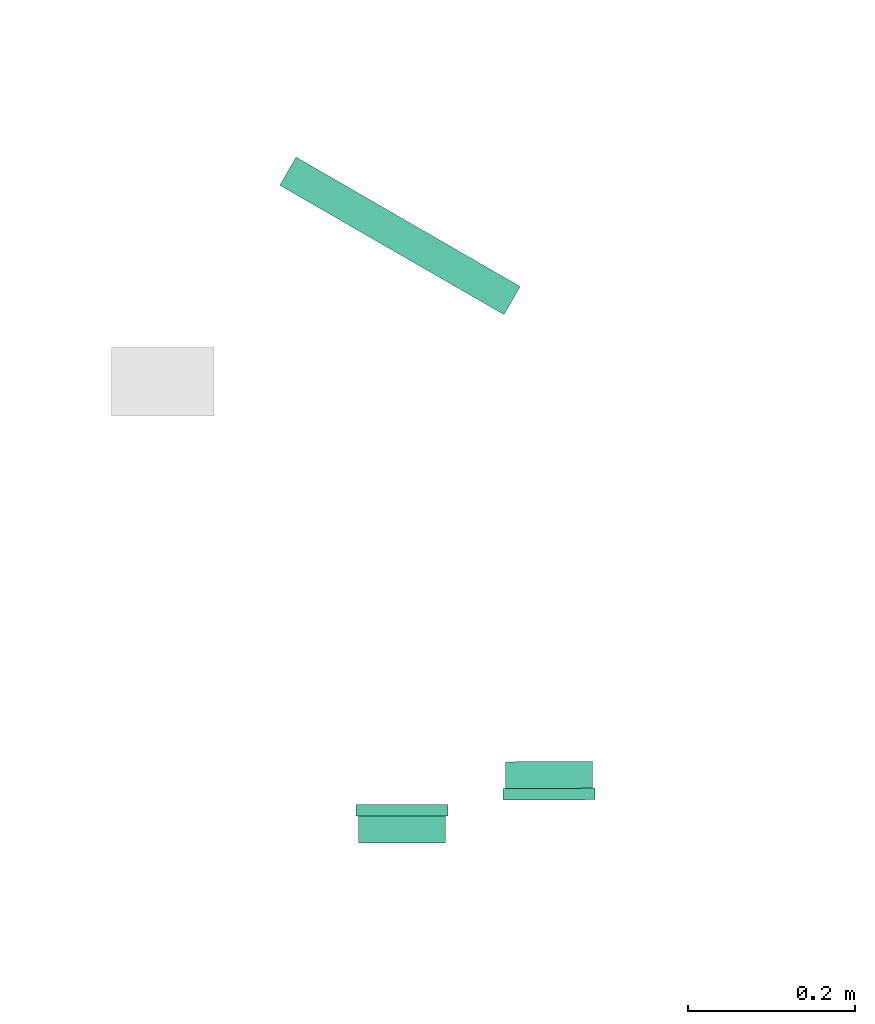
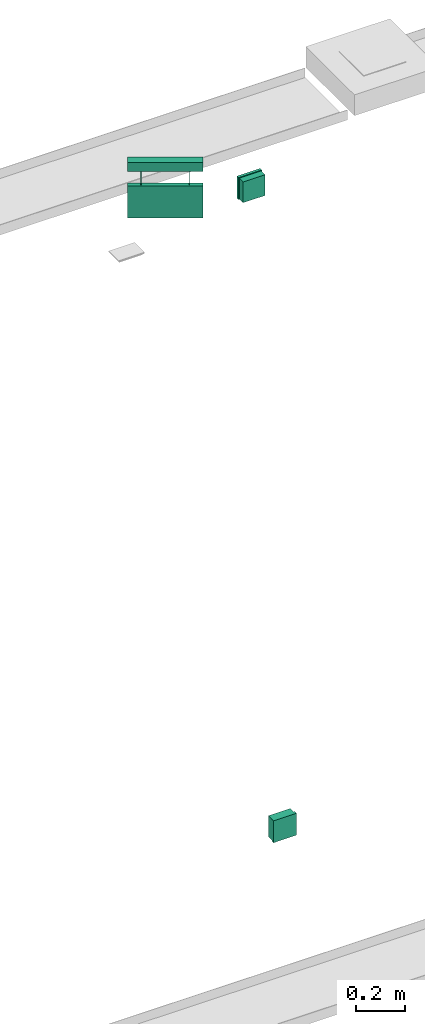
# One storey, part 4 of 24: 2 flow fittings, 1 flow terminal.
"""IFC2X3 building model written with IfcOpenShell, lengths in millimetres."""

from ifc_helpers import new_model, entity, si_unit, converted_unit, derived_unit, direction, frame, origin_with_axes, place, context, subcontext, project, spatial, open_shell, surface_model, source, transform, mapped, type_object, element, save


model = new_model("IFC2X3")

# Units and contexts
model_context = context("Model", 3, precision=0.01, world=frame((0.0, 4.29681676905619e-09, 0.0)), true_north=direction((4.01073788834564e-13, 1.0)))
plan_context = context("Plan", 3, precision=0.01, world=frame((0.0, 4.29681676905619e-09, 0.0)), true_north=direction((4.01073788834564e-13, 1.0)))
body_context = subcontext(model_context, "Body", "Model", "MODEL_VIEW")
ifc_project = project(units=[converted_unit("PLANEANGLEUNIT", "DEGREE", entity("IfcPositiveLengthMeasure", 0.0174532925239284), si_unit("PLANEANGLEUNIT", "RADIAN"), dimensions=[0, 0, 0, 0, 0, 0, 0]), si_unit("AREAUNIT", "SQUARE_METRE"), si_unit("LENGTHUNIT", "METRE", prefix="MILLI"), si_unit("MASSUNIT", "GRAM", prefix="KILO"), si_unit("POWERUNIT", "WATT"), si_unit("PRESSUREUNIT", "PASCAL"), si_unit("FORCEUNIT", "NEWTON", prefix="KILO"), si_unit("ELECTRICVOLTAGEUNIT", "VOLT"), si_unit("ELECTRICCURRENTUNIT", "AMPERE"), si_unit("THERMODYNAMICTEMPERATUREUNIT", "DEGREE_CELSIUS"), si_unit("TIMEUNIT", "SECOND"), si_unit("VOLUMEUNIT", "CUBIC_METRE"), derived_unit("LINEARVELOCITYUNIT", [(si_unit("LENGTHUNIT", "METRE"), 1), (si_unit("TIMEUNIT", "SECOND"), -1)]), derived_unit("VOLUMETRICFLOWRATEUNIT", [(si_unit("VOLUMEUNIT", "CUBIC_METRE"), 1), (si_unit("TIMEUNIT", "SECOND"), -1)]), derived_unit("THERMALTRANSMITTANCEUNIT", [(si_unit("POWERUNIT", "WATT"), 1), (si_unit("THERMODYNAMICTEMPERATUREUNIT", "KELVIN"), -1), (si_unit("AREAUNIT", "SQUARE_METRE"), -1)]), derived_unit("SOUNDPRESSUREUNIT", [(si_unit("PRESSUREUNIT", "PASCAL"), 1)])], contexts=[model_context, plan_context])

# Site, building, storey
site_placement = place(None, frame((0.0, -4.29681676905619e-09, 0.0), z_axis=(0.0, 0.0, 1.0), x_axis=(1.0, 0.0, 0.0)))
site = spatial("IfcSite", under=ifc_project, at=site_placement, Name="ENGM", CompositionType="ELEMENT")
building_placement = place(site_placement, frame((0.0, 4.29681676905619e-09, 0.0), z_axis=(0.0, 0.0, 1.0), x_axis=(1.0, 0.0, 0.0)))
building = spatial("IfcBuilding", under=site, at=building_placement, Name="TH", CompositionType="ELEMENT")
storey_placement = place(building_placement, frame((0.0, 0.0, 210200.0), z_axis=(0.0, 0.0, 1.0), x_axis=(1.0, 0.0, 0.0)))
storey = spatial("IfcBuildingStorey", under=building, at=storey_placement, Name="Nivå F - 0,7 m", CompositionType="ELEMENT", Elevation=210200.0)

# Flow fittings
junction_box_type = type_object("IfcJunctionBoxType", Name="Koblingsboks åpen", PredefinedType="NOTDEFINED")
shared_shape_1 = source(origin_with_axes(), body_context, "Body", "SurfaceModel", [
    surface_model("IfcShellBasedSurfaceModel", [(-55.0, 46.0, 55.0), (-55.0, 32.2, 55.0), (55.0, 32.2, 55.0), (55.0, 46.0, 55.0), (55.0, 46.0, -55.0), (55.0, 32.2, -55.0), (-55.0, 32.2, -55.0), (-55.0, 46.0, -55.0), (-52.0, 32.2, 52.0), (-52.0, 0.0, 52.0), (52.0, 0.0, 52.0), (52.0, 32.2, 52.0), (52.0, 32.2, -52.0), (52.0, 0.0, -52.0), (-52.0, 0.0, -52.0), (-52.0, 32.2, -52.0)], [open_shell([[[0, 1, 2]], [[2, 3, 0]], [[4, 5, 6]], [[6, 7, 4]], [[2, 1, 6]], [[6, 5, 2]], [[3, 2, 5]], [[5, 4, 3]], [[0, 3, 4]], [[4, 7, 0]], [[1, 0, 7]], [[7, 6, 1]], [[8, 9, 10]], [[10, 11, 8]], [[12, 13, 14]], [[14, 15, 12]], [[10, 9, 14]], [[14, 13, 10]], [[11, 10, 13]], [[13, 12, 11]], [[8, 11, 12]], [[12, 15, 8]], [[9, 8, 15]], [[15, 14, 9]]])]),
])
for number, where, z_axis, x_axis in (
    (1, (902432.03037, 477598.08045, 0.0), (0.0, 0.0, 1.0), (-0.999983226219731, -0.00579200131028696, 0.0)),
    (2, (902256.14095, 477500.7, 3300.0), (0.0, 0.0, 1.0), (1.0, 0.0, 0.0)),
):
    element("IfcFlowFitting", number, at=place(storey_placement, frame(where, z_axis=z_axis, x_axis=x_axis)), inside=storey, type_object=junction_box_type, Name="Koblingsboks åpen", context=body_context, shape_type="MappedRepresentation", body=[
        mapped(shared_shape_1, transform((0.0, 0.0, 0.0), scale=1.0)),
    ])

# Flow terminal
light_fixture_type = type_object("IfcLightFixtureType", Name="IB7334 Zumtobel Puresign/Consign 150 ASI NDA", PredefinedType="NOTDEFINED")
shared_shape_2 = source(origin_with_axes(), body_context, "Body", "SurfaceModel", [
    surface_model("IfcShellBasedSurfaceModel", [(-81.53868, 34.0, -145.12258), (-54.46132, 34.0, -145.12258), (-54.46132, 34.0, -221.44284), (-27.10707, 34.0, -224.68761), (-68.0, 34.0, -265.58054), (-27.10707, 34.0, -194.08859), (-81.53868, 34.0, -221.44284), (-108.89293, 34.0, -224.68761), (-108.89293, 34.0, -194.08859), (-81.53868, 32.0, -221.44284), (-68.0, 32.0, -265.58054), (-54.46132, 32.0, -221.44284), (-108.89293, 32.0, -224.68761), (-108.89293, 32.0, -194.08859), (-27.10707, 32.0, -224.68761), (-81.53868, 32.0, -145.12258), (-54.46132, 32.0, -145.12258), (-27.10707, 32.0, -194.08859), (-128.62178, 34.0, -240.35155), (-135.61481, 34.0, -223.4689), (-117.49747, 34.0, -254.84903), (-138.0, 34.0, -205.35156), (-135.61481, 34.0, -187.23423), (-128.62178, 34.0, -170.35156), (-103.0, 34.0, -265.97334), (-86.11734, 34.0, -272.96637), (-68.0, 34.0, -275.35156), (-49.88267, 34.0, -272.96637), (-33.0, 34.0, -265.97334), (-117.49747, 34.0, -155.8541), (-103.0, 34.0, -144.72978), (-86.11734, 34.0, -137.73675), (-68.0, 34.0, -135.35156), (-49.88267, 34.0, -137.73675), (-33.0, 34.0, -144.72978), (-0.38519, 34.0, -223.4689), (-7.37822, 34.0, -240.35155), (2.0, 34.0, -205.35156), (-18.50252, 34.0, -254.84903), (-18.50252, 34.0, -155.8541), (-7.37822, 34.0, -170.35156), (-0.38519, 34.0, -187.23423), (-49.88267, 32.0, -137.73675), (-68.0, 32.0, -135.35156), (-33.0, 32.0, -144.72978), (-103.0, 32.0, -144.72978), (-86.11734, 32.0, -137.73675), (-0.38519, 32.0, -187.23423), (-7.37822, 32.0, -170.35156), (2.0, 32.0, -205.35156), (-18.50252, 32.0, -155.8541), (-0.38519, 32.0, -223.4689), (-7.37822, 32.0, -240.35155), (-18.50252, 32.0, -254.84903), (-117.49747, 32.0, -155.8541), (-128.62178, 32.0, -170.35156), (-135.61481, 32.0, -187.23423), (-138.0, 32.0, -205.35156), (-135.61481, 32.0, -223.4689), (-128.62178, 32.0, -240.35155), (-117.49747, 32.0, -254.84903), (-103.0, 32.0, -265.97334), (-33.0, 32.0, -265.97334), (-86.11734, 32.0, -272.96637), (-49.88267, 32.0, -272.96637), (-68.0, 32.0, -275.35156), (-155.0, 34.0, -285.35157), (29.54747, 34.0, -259.89348), (40.0, 34.0, -266.174), (155.0, 34.0, -285.35157), (-155.0, 34.0, -125.35156), (10.0, 34.0, -203.35156), (10.0, 34.0, -191.35157), (40.0, 34.0, -203.35156), (28.0, 34.0, -178.14045), (58.20469, 34.0, -212.19986), (68.0, 34.0, -251.35155), (68.0, 34.0, -219.57417), (110.0, 34.0, -251.35155), (110.0, 34.0, -239.35156), (80.0, 34.0, -207.93515), (80.0, 34.0, -239.35156), (155.0, 34.0, -125.35156), (28.0, 34.0, -191.35157), (88.85504, 34.0, -196.43854), (99.14496, 34.0, -190.26459), (78.60286, 34.0, -179.35157), (65.7082, 34.0, -179.35157), (38.37653, 34.0, -166.87452), (42.6718, 34.0, -168.35925), (40.0, 34.0, -183.07235), (29.87565, 34.0, -160.35157), (28.0, 34.0, -153.35156), (28.47704, 34.0, -149.7281), (29.87565, 34.0, -146.35156), (28.47704, 34.0, -156.97503), (35.0, 34.0, -165.47591), (32.1005, 34.0, -163.25106), (42.0, 34.0, -139.35156), (32.1005, 34.0, -143.45206), (35.0, 34.0, -141.22721), (38.37653, 34.0, -139.8286), (42.0, 34.0, -167.35156), (45.62347, 34.0, -166.87452), (46.0, 34.0, -167.35156), (49.0, 34.0, -165.47591), (85.39714, 34.0, -167.35156), (51.89949, 34.0, -163.25106), (54.12435, 34.0, -160.35157), (55.52296, 34.0, -156.97503), (51.89949, 34.0, -143.45206), (49.0, 34.0, -141.22721), (45.62347, 34.0, -139.8286), (55.52296, 34.0, -149.7281), (56.0, 34.0, -153.35156), (54.12435, 34.0, -146.35156), (155.0, 32.0, -125.35156), (-155.0, 32.0, -125.35156), (42.0, 32.0, -139.35156), (35.0, 32.0, -141.22721), (29.87565, 32.0, -146.35156), (32.1005, 32.0, -143.45206), (38.37653, 32.0, -139.8286), (28.47704, 32.0, -149.7281), (28.0, 32.0, -153.35156), (28.47704, 32.0, -156.97503), (28.0, 32.0, -178.14045), (38.37653, 32.0, -166.87452), (35.0, 32.0, -165.47591), (32.1005, 32.0, -163.25106), (29.87565, 32.0, -160.35157), (45.62347, 32.0, -139.8286), (49.0, 32.0, -141.22721), (51.89949, 32.0, -143.45206), (54.12435, 32.0, -146.35156), (85.39714, 32.0, -167.35156), (55.52296, 32.0, -149.7281), (56.0, 32.0, -153.35156), (45.62347, 32.0, -166.87452), (42.6718, 32.0, -168.35925), (46.0, 32.0, -167.35156), (42.0, 32.0, -167.35156), (49.0, 32.0, -165.47591), (54.12435, 32.0, -160.35157), (55.52296, 32.0, -156.97503), (51.89949, 32.0, -163.25106), (99.14496, 32.0, -190.26459), (-155.0, 32.0, -285.35157), (10.0, 32.0, -203.35156), (10.0, 32.0, -191.35157), (40.0, 32.0, -203.35156), (29.54747, 32.0, -259.89348), (155.0, 32.0, -285.35157), (40.0, 32.0, -266.174), (28.0, 32.0, -191.35157), (88.85504, 32.0, -196.43854), (78.60286, 32.0, -179.35157), (80.0, 32.0, -207.93515), (65.7082, 32.0, -179.35157), (110.0, 32.0, -239.35156), (40.0, 32.0, -183.07235), (58.20469, 32.0, -212.19986), (68.0, 32.0, -219.57417), (68.0, 32.0, -251.35155), (110.0, 32.0, -251.35155), (80.0, 32.0, -239.35156), (97.65961, 22.79955, -45.35156), (98.63059, 23.54461, -45.35156), (98.24492, 23.38486, -45.35156), (97.91374, 23.13074, -45.35156), (97.49985, 22.41388, -45.35156), (97.44537, 22.0, -45.35156), (99.45835, 23.54461, -45.35156), (100.42933, 21.20045, -45.35156), (99.84401, 23.38486, -45.35156), (100.58908, 22.41388, -45.35156), (99.04447, 23.5991, -45.35156), (100.42933, 22.79955, -45.35156), (100.1752, 23.13074, -45.35156), (97.91374, 20.86927, -45.35156), (97.49985, 21.58612, -45.35156), (97.65961, 21.20045, -45.35156), (98.63059, 20.45539, -45.35156), (99.04447, 20.4009, -45.35156), (98.24492, 20.61514, -45.35156), (99.45835, 20.45539, -45.35156), (100.64357, 22.0, -45.35156), (100.58908, 21.58612, -45.35156), (99.84401, 20.61514, -45.35156), (100.1752, 20.86927, -45.35156), (-99.84401, 23.38486, -45.35156), (-98.24492, 23.38486, -45.35156), (-99.45835, 23.54461, -45.35156), (-100.1752, 23.13074, -45.35156), (-100.1752, 20.86927, -45.35156), (-100.58908, 22.41388, -45.35156), (-100.64357, 22.0, -45.35156), (-100.42933, 22.79955, -45.35156), (-97.65961, 21.20045, -45.35156), (-99.04447, 23.5991, -45.35156), (-98.63059, 23.54461, -45.35156), (-97.91374, 23.13074, -45.35156), (-97.49985, 22.41388, -45.35156), (-97.65961, 22.79955, -45.35156), (-100.58908, 21.58612, -45.35156), (-100.42933, 21.20045, -45.35156), (-99.45835, 20.45539, -45.35156), (-99.84401, 20.61514, -45.35156), (-99.04447, 20.4009, -45.35156), (-98.63059, 20.45539, -45.35156), (-97.44537, 22.0, -45.35156), (-97.49985, 21.58612, -45.35156), (-98.24492, 20.61514, -45.35156), (-97.91374, 20.86927, -45.35156), (97.91374, 20.86927, -124.69685), (99.04447, 20.4009, -124.69685), (98.63059, 20.45539, -124.69685), (98.24492, 20.61514, -124.69685), (97.65961, 21.20045, -124.69685), (97.49985, 21.58612, -124.69685), (99.45835, 20.45539, -124.69685), (97.65961, 22.79955, -124.69685), (100.42933, 21.20045, -124.69685), (99.84401, 20.61514, -124.69685), (100.1752, 20.86927, -124.69685), (100.64357, 22.0, -124.69685), (100.58908, 21.58612, -124.69685), (100.58908, 22.41388, -124.69685), (97.44537, 22.0, -124.69685), (97.49985, 22.41388, -124.69685), (98.63059, 23.54461, -124.69685), (98.24492, 23.38486, -124.69685), (97.91374, 23.13074, -124.69685), (99.45835, 23.54461, -124.69685), (100.42933, 22.79955, -124.69685), (99.84401, 23.38486, -124.69685), (100.1752, 23.13074, -124.69685), (99.04447, 23.5991, -124.69685), (-99.45835, 20.45539, -124.69685), (-98.63059, 20.45539, -124.69685), (-99.04447, 20.4009, -124.69685), (-100.1752, 20.86927, -124.69685), (-99.84401, 20.61514, -124.69685), (-100.42933, 21.20045, -124.69685), (-100.58908, 21.58612, -124.69685), (-97.65961, 21.20045, -124.69685), (-99.84401, 23.38486, -124.69685), (-98.24492, 20.61514, -124.69685), (-97.91374, 20.86927, -124.69685), (-97.44537, 22.0, -124.69685), (-97.49985, 21.58612, -124.69685), (-97.49985, 22.41388, -124.69685), (-100.64357, 22.0, -124.69685), (-100.1752, 23.13074, -124.69685), (-100.58908, 22.41388, -124.69685), (-100.42933, 22.79955, -124.69685), (-98.24492, 23.38486, -124.69685), (-99.45835, 23.54461, -124.69685), (-97.91374, 23.13074, -124.69685), (-97.65961, 22.79955, -124.69685), (-99.04447, 23.5991, -124.69685), (-98.63059, 23.54461, -124.69685), (155.0, 41.43279, -0.02005), (155.0, 2.56721, -0.02005), (155.0, 41.43279, -45.67969), (155.0, 2.56721, -45.67969), (155.0, 32.0, -124.69685), (155.0, 12.0, -124.69685), (155.0, 12.0, -284.69685), (155.0, 32.0, -284.69685), (-155.0, 32.0, -284.69685), (-155.0, 12.0, -284.69685), (-155.0, 32.0, -124.69685), (-155.0, 12.0, -124.69685), (-155.0, 41.43279, -45.67969), (-155.0, 2.56721, -45.67969), (-155.0, 2.56721, -0.02005), (-155.0, 41.43279, -0.02005)], [open_shell([[[0, 1, 2]], [[2, 3, 4]], [[3, 2, 5]], [[6, 4, 7]], [[4, 6, 2]], [[6, 7, 8]], [[2, 6, 0]], [[9, 10, 11]], [[12, 9, 13]], [[9, 12, 10]], [[10, 14, 11]], [[15, 11, 16]], [[15, 9, 11]], [[17, 11, 14]], [[3, 5, 17]], [[17, 14, 3]], [[4, 3, 14]], [[14, 10, 4]], [[7, 4, 10]], [[10, 12, 7]], [[8, 7, 12]], [[12, 13, 8]], [[6, 8, 9]], [[13, 9, 8]], [[0, 6, 9]], [[9, 15, 0]], [[1, 0, 15]], [[15, 16, 1]], [[2, 1, 16]], [[16, 11, 2]], [[5, 2, 17]], [[11, 17, 2]], [[18, 19, 7]], [[7, 20, 18]], [[7, 19, 21]], [[22, 23, 8]], [[7, 21, 8]], [[6, 8, 0]], [[8, 21, 22]], [[20, 7, 24]], [[25, 24, 4]], [[26, 4, 27]], [[4, 26, 25]], [[7, 4, 24]], [[27, 4, 28]], [[3, 28, 4]], [[8, 23, 29]], [[30, 0, 8]], [[0, 31, 32]], [[31, 0, 30]], [[32, 33, 1]], [[2, 1, 5]], [[34, 1, 33]], [[32, 1, 0]], [[5, 1, 34]], [[3, 35, 36]], [[35, 3, 37]], [[36, 38, 3]], [[38, 28, 3]], [[39, 40, 5]], [[5, 41, 37]], [[41, 5, 40]], [[5, 37, 3]], [[39, 5, 34]], [[30, 8, 29]], [[42, 43, 16]], [[17, 44, 16]], [[16, 44, 42]], [[43, 15, 16]], [[15, 45, 13]], [[46, 15, 43]], [[15, 46, 45]], [[16, 11, 17]], [[17, 47, 48]], [[17, 49, 47]], [[48, 50, 17]], [[14, 51, 49]], [[52, 51, 14]], [[52, 14, 53]], [[14, 49, 17]], [[50, 44, 17]], [[45, 54, 13]], [[55, 56, 13]], [[57, 12, 13]], [[13, 56, 57]], [[9, 15, 13]], [[58, 59, 12]], [[60, 12, 59]], [[12, 57, 58]], [[12, 60, 61]], [[14, 10, 62]], [[53, 14, 62]], [[61, 63, 10]], [[64, 10, 65]], [[10, 64, 62]], [[65, 10, 63]], [[12, 61, 10]], [[13, 54, 55]], [[3, 4, 10]], [[10, 14, 3]], [[5, 3, 14]], [[14, 17, 5]], [[2, 5, 17]], [[17, 11, 2]], [[1, 2, 16]], [[11, 16, 2]], [[0, 1, 16]], [[16, 15, 0]], [[6, 0, 15]], [[15, 9, 6]], [[8, 6, 9]], [[9, 13, 8]], [[7, 8, 13]], [[13, 12, 7]], [[4, 7, 12]], [[12, 10, 4]], [[42, 33, 43]], [[44, 34, 42]], [[40, 50, 48]], [[44, 50, 39]], [[41, 48, 47]], [[42, 34, 33]], [[33, 32, 43]], [[41, 40, 48]], [[39, 50, 40]], [[39, 34, 44]], [[37, 41, 47]], [[47, 49, 37]], [[51, 35, 49]], [[52, 36, 51]], [[28, 53, 62]], [[52, 53, 38]], [[27, 62, 64]], [[52, 38, 36]], [[36, 35, 51]], [[26, 27, 64]], [[28, 62, 27]], [[28, 38, 53]], [[65, 26, 64]], [[49, 35, 37]], [[63, 25, 65]], [[61, 24, 63]], [[18, 60, 59]], [[61, 60, 20]], [[19, 59, 58]], [[63, 24, 25]], [[25, 26, 65]], [[19, 18, 59]], [[20, 60, 18]], [[20, 24, 61]], [[21, 19, 58]], [[58, 57, 21]], [[56, 22, 57]], [[55, 23, 56]], [[30, 54, 45]], [[55, 54, 29]], [[31, 45, 46]], [[55, 29, 23]], [[23, 22, 56]], [[32, 31, 46]], [[30, 45, 31]], [[30, 29, 54]], [[43, 32, 46]], [[57, 22, 21]], [[66, 24, 25]], [[24, 66, 20]], [[18, 20, 66]], [[66, 19, 18]], [[25, 26, 66]], [[28, 38, 67]], [[27, 28, 68]], [[26, 27, 69]], [[66, 26, 69]], [[21, 19, 66]], [[22, 21, 70]], [[67, 36, 35]], [[71, 37, 72]], [[41, 72, 37]], [[37, 71, 35]], [[73, 35, 71]], [[41, 40, 74]], [[21, 66, 70]], [[38, 36, 67]], [[67, 68, 28]], [[67, 73, 75]], [[76, 68, 77]], [[69, 78, 79]], [[69, 68, 78]], [[80, 79, 81]], [[68, 76, 78]], [[82, 69, 79]], [[68, 69, 27]], [[73, 67, 35]], [[74, 83, 72]], [[72, 41, 74]], [[84, 85, 79]], [[84, 80, 86]], [[86, 80, 87]], [[88, 89, 74]], [[84, 79, 80]], [[75, 73, 90]], [[82, 79, 85]], [[91, 74, 40]], [[92, 40, 39]], [[39, 93, 92]], [[94, 93, 39]], [[23, 70, 29]], [[40, 92, 95]], [[96, 74, 97]], [[91, 40, 95]], [[74, 91, 97]], [[74, 96, 88]], [[31, 30, 70]], [[98, 33, 32]], [[70, 32, 31]], [[30, 29, 70]], [[39, 99, 94]], [[39, 34, 99]], [[34, 100, 99]], [[100, 34, 33]], [[101, 100, 33]], [[32, 70, 82]], [[23, 22, 70]], [[89, 102, 103]], [[102, 89, 88]], [[89, 103, 104]], [[104, 105, 106]], [[107, 106, 105]], [[105, 104, 103]], [[106, 108, 109]], [[106, 107, 108]], [[110, 111, 82]], [[98, 101, 33]], [[112, 98, 82]], [[111, 112, 82]], [[113, 106, 114]], [[115, 82, 106]], [[82, 115, 110]], [[106, 113, 115]], [[114, 106, 109]], [[98, 32, 82]], [[106, 82, 85]], [[116, 117, 43]], [[43, 117, 46]], [[45, 46, 117]], [[117, 54, 45]], [[43, 42, 118]], [[119, 42, 44]], [[120, 121, 50]], [[44, 121, 119]], [[44, 50, 121]], [[119, 122, 42]], [[123, 120, 50]], [[123, 50, 124]], [[125, 124, 48]], [[54, 117, 55]], [[126, 127, 128]], [[126, 129, 130]], [[126, 128, 129]], [[130, 125, 48]], [[124, 50, 48]], [[117, 56, 55]], [[118, 131, 116]], [[118, 42, 122]], [[131, 132, 116]], [[116, 133, 134]], [[133, 116, 132]], [[135, 134, 136]], [[116, 134, 135]], [[135, 136, 137]], [[118, 116, 43]], [[138, 139, 140]], [[139, 138, 141]], [[139, 141, 127]], [[127, 126, 139]], [[138, 140, 142]], [[143, 135, 144]], [[142, 135, 145]], [[135, 142, 140]], [[135, 143, 145]], [[144, 135, 137]], [[116, 135, 146]], [[56, 117, 57]], [[57, 147, 58]], [[126, 48, 47]], [[148, 49, 51]], [[47, 49, 149]], [[150, 148, 51]], [[148, 149, 49]], [[51, 52, 151]], [[60, 59, 147]], [[61, 147, 63]], [[147, 61, 60]], [[59, 58, 147]], [[53, 62, 151]], [[65, 63, 147]], [[64, 65, 152]], [[62, 64, 153]], [[147, 152, 65]], [[117, 147, 57]], [[52, 53, 151]], [[154, 126, 149]], [[126, 47, 149]], [[155, 156, 157]], [[157, 156, 158]], [[146, 155, 159]], [[160, 150, 161]], [[162, 153, 163]], [[153, 151, 62]], [[163, 153, 164]], [[161, 150, 151]], [[157, 165, 159]], [[159, 164, 152]], [[116, 159, 152]], [[153, 152, 164]], [[159, 155, 157]], [[153, 64, 152]], [[51, 151, 150]], [[159, 116, 146]], [[130, 48, 126]], [[70, 66, 147]], [[147, 117, 70]], [[82, 70, 117]], [[117, 116, 82]], [[69, 82, 116]], [[116, 152, 69]], [[66, 69, 152]], [[152, 147, 66]], [[79, 78, 164]], [[164, 159, 79]], [[81, 79, 159]], [[159, 165, 81]], [[87, 80, 157]], [[157, 158, 87]], [[86, 87, 158]], [[158, 156, 86]], [[84, 86, 156]], [[156, 155, 84]], [[85, 84, 155]], [[155, 146, 85]], [[106, 85, 146]], [[146, 135, 106]], [[104, 106, 135]], [[135, 140, 104]], [[89, 104, 139]], [[140, 139, 104]], [[74, 89, 139]], [[139, 126, 74]], [[83, 74, 126]], [[126, 154, 83]], [[72, 83, 149]], [[154, 149, 83]], [[71, 72, 149]], [[149, 148, 71]], [[73, 71, 148]], [[148, 150, 73]], [[90, 73, 150]], [[150, 160, 90]], [[75, 90, 160]], [[160, 161, 75]], [[67, 75, 161]], [[161, 151, 67]], [[68, 67, 151]], [[151, 153, 68]], [[77, 68, 153]], [[153, 162, 77]], [[76, 77, 162]], [[162, 163, 76]], [[92, 125, 95]], [[95, 130, 91]], [[96, 97, 128]], [[129, 97, 91]], [[88, 96, 127]], [[125, 130, 95]], [[92, 124, 125]], [[96, 128, 127]], [[128, 97, 129]], [[91, 130, 129]], [[88, 127, 141]], [[141, 102, 88]], [[102, 138, 103]], [[103, 142, 105]], [[108, 107, 143]], [[145, 107, 105]], [[109, 108, 144]], [[142, 145, 105]], [[103, 138, 142]], [[109, 144, 137]], [[144, 108, 143]], [[107, 145, 143]], [[109, 137, 114]], [[141, 138, 102]], [[78, 76, 163]], [[163, 164, 78]], [[80, 81, 165]], [[165, 157, 80]], [[114, 136, 113]], [[113, 134, 115]], [[111, 110, 132]], [[133, 110, 115]], [[112, 111, 131]], [[136, 134, 113]], [[114, 137, 136]], [[111, 132, 131]], [[132, 110, 133]], [[115, 134, 133]], [[112, 131, 118]], [[118, 98, 112]], [[98, 122, 101]], [[101, 119, 100]], [[94, 99, 120]], [[121, 99, 100]], [[93, 94, 123]], [[119, 121, 100]], [[101, 122, 119]], [[93, 123, 124]], [[123, 94, 120]], [[99, 121, 120]], [[93, 124, 92]], [[118, 122, 98]], [[37, 47, 41]], [[41, 48, 40]], [[34, 39, 44]], [[50, 39, 40]], [[33, 34, 42]], [[47, 48, 41]], [[37, 49, 47]], [[34, 44, 42]], [[44, 39, 50]], [[40, 48, 50]], [[33, 42, 43]], [[43, 32, 33]], [[32, 46, 31]], [[31, 45, 30]], [[23, 29, 55]], [[54, 29, 30]], [[22, 23, 56]], [[45, 54, 30]], [[31, 46, 45]], [[22, 56, 57]], [[56, 23, 55]], [[29, 54, 55]], [[22, 57, 21]], [[43, 46, 32]], [[21, 58, 19]], [[19, 59, 18]], [[24, 20, 61]], [[60, 20, 18]], [[25, 24, 63]], [[58, 59, 19]], [[21, 57, 58]], [[24, 61, 63]], [[61, 20, 60]], [[18, 59, 60]], [[25, 63, 65]], [[65, 26, 25]], [[26, 64, 27]], [[27, 62, 28]], [[36, 38, 52]], [[53, 38, 28]], [[35, 36, 51]], [[62, 53, 28]], [[27, 64, 62]], [[35, 51, 49]], [[51, 36, 52]], [[38, 53, 52]], [[35, 49, 37]], [[65, 64, 26]], [[106, 86, 87]], [[86, 106, 85]], [[84, 86, 85]], [[87, 75, 90]], [[106, 87, 104]], [[89, 90, 74]], [[90, 89, 104]], [[73, 83, 90]], [[71, 72, 83]], [[83, 74, 90]], [[104, 87, 90]], [[77, 80, 81]], [[78, 76, 81]], [[78, 81, 79]], [[77, 81, 76]], [[73, 71, 83]], [[75, 77, 67]], [[77, 68, 67]], [[75, 80, 77]], [[75, 87, 80]], [[98, 112, 111]], [[110, 98, 111]], [[92, 101, 110]], [[113, 110, 115]], [[113, 92, 110]], [[101, 99, 100]], [[101, 98, 110]], [[101, 94, 99]], [[101, 92, 94]], [[94, 92, 93]], [[114, 109, 113]], [[109, 108, 107]], [[91, 109, 107]], [[105, 103, 102]], [[91, 107, 105]], [[91, 105, 102]], [[92, 91, 95]], [[92, 109, 91]], [[91, 96, 97]], [[102, 96, 91]], [[102, 88, 96]], [[109, 92, 113]], [[163, 164, 165]], [[163, 165, 162]], [[159, 165, 164]], [[162, 165, 157]], [[161, 151, 162]], [[151, 153, 162]], [[160, 161, 158]], [[148, 150, 154]], [[162, 157, 161]], [[161, 157, 158]], [[155, 146, 156]], [[158, 156, 135]], [[135, 156, 146]], [[158, 135, 140]], [[154, 150, 160]], [[126, 154, 160]], [[149, 148, 154]], [[160, 139, 126]], [[139, 160, 140]], [[160, 158, 140]], [[141, 138, 142]], [[130, 141, 142]], [[145, 143, 144]], [[130, 142, 145]], [[130, 145, 144]], [[128, 130, 129]], [[128, 127, 141]], [[130, 124, 125]], [[130, 128, 141]], [[120, 124, 130]], [[130, 144, 122]], [[144, 136, 133]], [[133, 136, 134]], [[118, 133, 132]], [[118, 144, 133]], [[132, 131, 118]], [[120, 122, 121]], [[123, 124, 120]], [[121, 122, 119]], [[130, 122, 120]], [[122, 144, 118]], [[137, 136, 144]], [[78, 79, 159]], [[159, 164, 78]], [[76, 78, 164]], [[164, 163, 76]], [[77, 76, 163]], [[163, 162, 77]], [[68, 77, 162]], [[162, 153, 68]], [[67, 68, 153]], [[153, 151, 67]], [[75, 67, 151]], [[151, 161, 75]], [[90, 75, 161]], [[161, 160, 90]], [[73, 90, 160]], [[160, 150, 73]], [[71, 73, 150]], [[150, 148, 71]], [[72, 71, 148]], [[148, 149, 72]], [[83, 72, 149]], [[149, 154, 83]], [[74, 83, 154]], [[154, 126, 74]], [[89, 74, 126]], [[126, 139, 89]], [[104, 89, 139]], [[139, 140, 104]], [[106, 104, 140]], [[140, 135, 106]], [[85, 106, 135]], [[135, 146, 85]], [[84, 85, 146]], [[146, 155, 84]], [[86, 84, 155]], [[155, 156, 86]], [[87, 86, 156]], [[156, 158, 87]], [[80, 87, 158]], [[158, 157, 80]], [[81, 80, 157]], [[157, 165, 81]], [[79, 81, 165]], [[165, 159, 79]], [[123, 93, 124]], [[120, 94, 123]], [[100, 121, 119]], [[120, 121, 99]], [[101, 119, 122]], [[123, 94, 93]], [[93, 92, 124]], [[101, 100, 119]], [[99, 121, 100]], [[99, 94, 120]], [[98, 101, 122]], [[122, 118, 98]], [[131, 112, 118]], [[132, 111, 131]], [[115, 133, 134]], [[132, 133, 110]], [[113, 134, 136]], [[132, 110, 111]], [[111, 112, 131]], [[114, 113, 136]], [[115, 134, 113]], [[115, 110, 133]], [[137, 114, 136]], [[118, 112, 98]], [[144, 109, 137]], [[143, 108, 144]], [[105, 145, 142]], [[143, 145, 107]], [[103, 142, 138]], [[144, 108, 109]], [[109, 114, 137]], [[103, 105, 142]], [[107, 145, 105]], [[107, 108, 143]], [[102, 103, 138]], [[138, 141, 102]], [[127, 88, 141]], [[128, 96, 127]], [[91, 129, 130]], [[128, 129, 97]], [[95, 130, 125]], [[128, 97, 96]], [[96, 88, 127]], [[92, 95, 125]], [[91, 130, 95]], [[91, 97, 129]], [[124, 92, 125]], [[141, 88, 102]], [[166, 167, 168]], [[166, 168, 169]], [[166, 170, 171]], [[172, 167, 173]], [[167, 166, 173]], [[174, 173, 175]], [[172, 176, 167]], [[174, 177, 178]], [[177, 174, 175]], [[174, 172, 173]], [[166, 171, 179]], [[180, 181, 179]], [[166, 179, 173]], [[182, 183, 179]], [[182, 179, 184]], [[185, 179, 183]], [[186, 173, 187]], [[175, 173, 186]], [[173, 188, 189]], [[188, 173, 185]], [[179, 185, 173]], [[171, 180, 179]], [[190, 191, 192]], [[193, 194, 190]], [[195, 196, 193]], [[195, 193, 197]], [[198, 191, 190]], [[199, 191, 200]], [[199, 192, 191]], [[201, 202, 203]], [[198, 201, 191]], [[198, 202, 201]], [[193, 196, 194]], [[204, 205, 194]], [[190, 194, 198]], [[194, 206, 198]], [[206, 194, 207]], [[208, 209, 206]], [[210, 198, 211]], [[202, 198, 210]], [[198, 212, 213]], [[212, 198, 209]], [[206, 209, 198]], [[196, 204, 194]], [[214, 215, 216]], [[214, 216, 217]], [[214, 218, 219]], [[215, 214, 220]], [[221, 222, 214]], [[223, 222, 224]], [[222, 223, 220]], [[222, 225, 226]], [[222, 220, 214]], [[222, 227, 225]], [[228, 214, 219]], [[228, 229, 221]], [[230, 222, 221]], [[231, 230, 221]], [[231, 221, 232]], [[222, 230, 233]], [[234, 235, 236]], [[235, 234, 227]], [[222, 235, 227]], [[233, 235, 222]], [[230, 237, 233]], [[221, 214, 228]], [[238, 239, 240]], [[241, 238, 242]], [[241, 243, 244]], [[245, 238, 241]], [[246, 245, 241]], [[247, 245, 248]], [[245, 247, 239]], [[245, 249, 250]], [[245, 239, 238]], [[245, 251, 249]], [[252, 241, 244]], [[253, 252, 254]], [[253, 254, 255]], [[246, 256, 245]], [[241, 253, 246]], [[256, 246, 257]], [[251, 258, 259]], [[245, 258, 251]], [[256, 260, 261]], [[245, 256, 258]], [[257, 260, 256]], [[253, 241, 252]], [[227, 175, 225]], [[234, 177, 227]], [[233, 237, 172]], [[236, 177, 234]], [[186, 225, 175]], [[175, 227, 177]], [[235, 174, 178]], [[174, 235, 172]], [[235, 233, 172]], [[178, 177, 236]], [[178, 236, 235]], [[237, 176, 172]], [[167, 230, 231]], [[232, 168, 231]], [[166, 221, 229]], [[232, 221, 169]], [[170, 229, 228]], [[167, 176, 230]], [[168, 167, 231]], [[166, 169, 221]], [[171, 170, 228]], [[166, 229, 170]], [[168, 232, 169]], [[230, 176, 237]], [[219, 180, 228]], [[218, 181, 219]], [[214, 217, 184]], [[218, 214, 179]], [[171, 228, 180]], [[180, 219, 181]], [[183, 182, 216]], [[216, 182, 184]], [[179, 214, 184]], [[179, 181, 218]], [[217, 216, 184]], [[216, 215, 183]], [[185, 220, 223]], [[224, 188, 223]], [[173, 222, 226]], [[224, 222, 189]], [[187, 226, 225]], [[183, 215, 185]], [[188, 185, 223]], [[173, 189, 222]], [[186, 187, 225]], [[173, 226, 187]], [[188, 224, 189]], [[185, 215, 220]], [[244, 243, 204]], [[252, 244, 196]], [[242, 238, 206]], [[241, 242, 194]], [[243, 241, 205]], [[243, 205, 204]], [[204, 196, 244]], [[194, 205, 241]], [[194, 242, 207]], [[206, 207, 242]], [[206, 238, 208]], [[238, 240, 208]], [[247, 248, 213]], [[239, 247, 212]], [[250, 249, 210]], [[245, 250, 211]], [[248, 245, 198]], [[239, 209, 240]], [[239, 212, 209]], [[240, 209, 208]], [[198, 245, 211]], [[212, 247, 213]], [[213, 248, 198]], [[250, 210, 211]], [[251, 259, 202]], [[249, 251, 210]], [[256, 261, 191]], [[258, 256, 201]], [[259, 258, 203]], [[210, 251, 202]], [[202, 259, 203]], [[201, 256, 191]], [[200, 191, 261]], [[203, 258, 201]], [[199, 200, 261]], [[261, 260, 199]], [[246, 253, 193]], [[257, 246, 190]], [[254, 252, 196]], [[255, 254, 195]], [[253, 255, 197]], [[257, 192, 260]], [[257, 190, 192]], [[260, 192, 199]], [[197, 255, 195]], [[190, 246, 193]], [[193, 253, 197]], [[254, 196, 195]], [[262, 263, 264]], [[265, 264, 263]], [[266, 267, 268]], [[268, 269, 266]], [[270, 271, 272]], [[273, 272, 271]], [[274, 275, 276]], [[276, 277, 274]], [[265, 263, 276]], [[276, 275, 265]], [[268, 267, 273]], [[273, 271, 268]], [[269, 268, 270]], [[271, 270, 268]], [[266, 269, 272]], [[270, 272, 269]], [[264, 265, 274]], [[275, 274, 265]], [[262, 264, 274]], [[274, 277, 262]], [[263, 262, 277]], [[277, 276, 263]], [[267, 266, 273]], [[272, 273, 266]]])]),
])
flow_terminal_placement = place(storey_placement, frame((902242.71031, 478208.61879, 3005.0), z_axis=(0.0, 0.0, 1.0), x_axis=(0.866025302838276, -0.500000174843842, 0.0)))
element("IfcFlowTerminal", 3, at=flow_terminal_placement, inside=storey, type_object=light_fixture_type, Name="IB7334 Zumtobel Puresign/Consign 150 ASI NDA", context=body_context, shape_type="MappedRepresentation", body=[
    mapped(shared_shape_2, transform((0.0, 0.0, 0.0), scale=1.0)),
])

save(model, "model.ifc")
